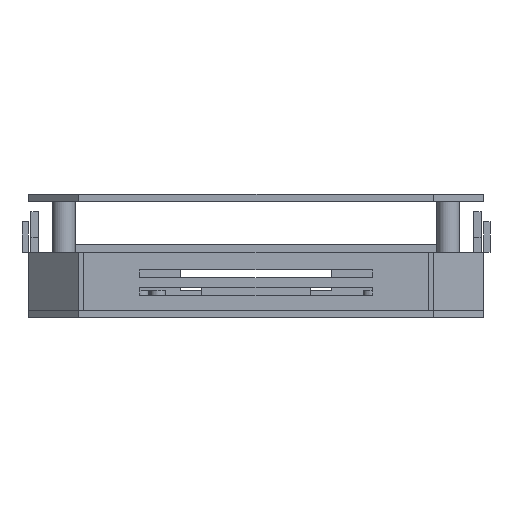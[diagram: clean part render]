
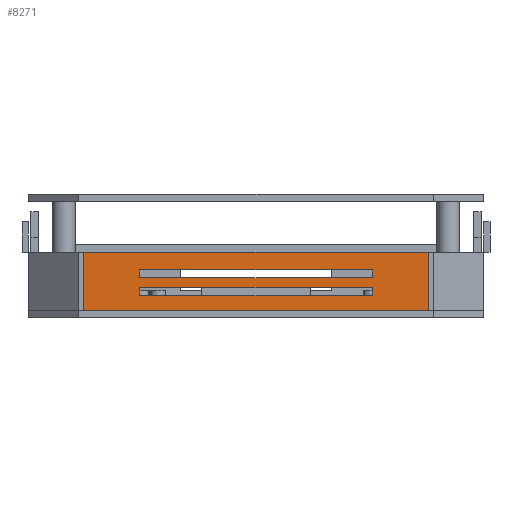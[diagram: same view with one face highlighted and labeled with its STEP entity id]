
A CAD part, front view. The second image highlights one B-rep face of the part: STEP entity #8271.
In plain terms, the highlighted planar face has unit normal (0, -1, 0).
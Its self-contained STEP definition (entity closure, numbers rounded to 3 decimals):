
#8235 = EDGE_CURVE('',#8236,#8238,#8240,.T.);
#8236 = VERTEX_POINT('',#8237);
#8237 = CARTESIAN_POINT('',(-68.,-130.,21.));
#8238 = VERTEX_POINT('',#8239);
#8239 = CARTESIAN_POINT('',(-68.,-130.,44.));
#8240 = LINE('',#8241,#8242);
#8241 = CARTESIAN_POINT('',(-68.,-130.,21.));
#8242 = VECTOR('',#8243,1.);
#8243 = DIRECTION('',(0.,0.,1.));
#8271 = ADVANCED_FACE('',(#8272,#8297,#8331),#8365,.F.);
#8272 = FACE_BOUND('',#8273,.F.);
#8273 = EDGE_LOOP('',(#8274,#8282,#8283,#8291));
#8274 = ORIENTED_EDGE('',*,*,#8275,.F.);
#8275 = EDGE_CURVE('',#8236,#8276,#8278,.T.);
#8276 = VERTEX_POINT('',#8277);
#8277 = CARTESIAN_POINT('',(68.,-130.,21.));
#8278 = LINE('',#8279,#8280);
#8279 = CARTESIAN_POINT('',(-68.,-130.,21.));
#8280 = VECTOR('',#8281,1.);
#8281 = DIRECTION('',(1.,0.,0.));
#8282 = ORIENTED_EDGE('',*,*,#8235,.T.);
#8283 = ORIENTED_EDGE('',*,*,#8284,.T.);
#8284 = EDGE_CURVE('',#8238,#8285,#8287,.T.);
#8285 = VERTEX_POINT('',#8286);
#8286 = CARTESIAN_POINT('',(68.,-130.,44.));
#8287 = LINE('',#8288,#8289);
#8288 = CARTESIAN_POINT('',(-68.,-130.,44.));
#8289 = VECTOR('',#8290,1.);
#8290 = DIRECTION('',(1.,0.,0.));
#8291 = ORIENTED_EDGE('',*,*,#8292,.F.);
#8292 = EDGE_CURVE('',#8276,#8285,#8293,.T.);
#8293 = LINE('',#8294,#8295);
#8294 = CARTESIAN_POINT('',(68.,-130.,21.));
#8295 = VECTOR('',#8296,1.);
#8296 = DIRECTION('',(0.,0.,1.));
#8297 = FACE_BOUND('',#8298,.F.);
#8298 = EDGE_LOOP('',(#8299,#8309,#8317,#8325));
#8299 = ORIENTED_EDGE('',*,*,#8300,.F.);
#8300 = EDGE_CURVE('',#8301,#8303,#8305,.T.);
#8301 = VERTEX_POINT('',#8302);
#8302 = CARTESIAN_POINT('',(-46.,-130.,30.));
#8303 = VERTEX_POINT('',#8304);
#8304 = CARTESIAN_POINT('',(46.,-130.,30.));
#8305 = LINE('',#8306,#8307);
#8306 = CARTESIAN_POINT('',(-57.,-130.,30.));
#8307 = VECTOR('',#8308,1.);
#8308 = DIRECTION('',(1.,0.,0.));
#8309 = ORIENTED_EDGE('',*,*,#8310,.T.);
#8310 = EDGE_CURVE('',#8301,#8311,#8313,.T.);
#8311 = VERTEX_POINT('',#8312);
#8312 = CARTESIAN_POINT('',(-46.,-130.,27.));
#8313 = LINE('',#8314,#8315);
#8314 = CARTESIAN_POINT('',(-46.,-130.,24.));
#8315 = VECTOR('',#8316,1.);
#8316 = DIRECTION('',(0.,0.,-1.));
#8317 = ORIENTED_EDGE('',*,*,#8318,.T.);
#8318 = EDGE_CURVE('',#8311,#8319,#8321,.T.);
#8319 = VERTEX_POINT('',#8320);
#8320 = CARTESIAN_POINT('',(46.,-130.,27.));
#8321 = LINE('',#8322,#8323);
#8322 = CARTESIAN_POINT('',(-57.,-130.,27.));
#8323 = VECTOR('',#8324,1.);
#8324 = DIRECTION('',(1.,0.,0.));
#8325 = ORIENTED_EDGE('',*,*,#8326,.F.);
#8326 = EDGE_CURVE('',#8303,#8319,#8327,.T.);
#8327 = LINE('',#8328,#8329);
#8328 = CARTESIAN_POINT('',(46.,-130.,24.));
#8329 = VECTOR('',#8330,1.);
#8330 = DIRECTION('',(0.,0.,-1.));
#8331 = FACE_BOUND('',#8332,.F.);
#8332 = EDGE_LOOP('',(#8333,#8343,#8351,#8359));
#8333 = ORIENTED_EDGE('',*,*,#8334,.F.);
#8334 = EDGE_CURVE('',#8335,#8337,#8339,.T.);
#8335 = VERTEX_POINT('',#8336);
#8336 = CARTESIAN_POINT('',(-46.,-130.,37.));
#8337 = VERTEX_POINT('',#8338);
#8338 = CARTESIAN_POINT('',(46.,-130.,37.));
#8339 = LINE('',#8340,#8341);
#8340 = CARTESIAN_POINT('',(-57.,-130.,37.));
#8341 = VECTOR('',#8342,1.);
#8342 = DIRECTION('',(1.,0.,0.));
#8343 = ORIENTED_EDGE('',*,*,#8344,.T.);
#8344 = EDGE_CURVE('',#8335,#8345,#8347,.T.);
#8345 = VERTEX_POINT('',#8346);
#8346 = CARTESIAN_POINT('',(-46.,-130.,34.));
#8347 = LINE('',#8348,#8349);
#8348 = CARTESIAN_POINT('',(-46.,-130.,27.5));
#8349 = VECTOR('',#8350,1.);
#8350 = DIRECTION('',(0.,0.,-1.));
#8351 = ORIENTED_EDGE('',*,*,#8352,.T.);
#8352 = EDGE_CURVE('',#8345,#8353,#8355,.T.);
#8353 = VERTEX_POINT('',#8354);
#8354 = CARTESIAN_POINT('',(46.,-130.,34.));
#8355 = LINE('',#8356,#8357);
#8356 = CARTESIAN_POINT('',(-57.,-130.,34.));
#8357 = VECTOR('',#8358,1.);
#8358 = DIRECTION('',(1.,0.,0.));
#8359 = ORIENTED_EDGE('',*,*,#8360,.F.);
#8360 = EDGE_CURVE('',#8337,#8353,#8361,.T.);
#8361 = LINE('',#8362,#8363);
#8362 = CARTESIAN_POINT('',(46.,-130.,27.5));
#8363 = VECTOR('',#8364,1.);
#8364 = DIRECTION('',(0.,0.,-1.));
#8365 = PLANE('',#8366);
#8366 = AXIS2_PLACEMENT_3D('',#8367,#8368,#8369);
#8367 = CARTESIAN_POINT('',(-68.,-130.,21.));
#8368 = DIRECTION('',(0.,1.,0.));
#8369 = DIRECTION('',(0.,0.,1.));
